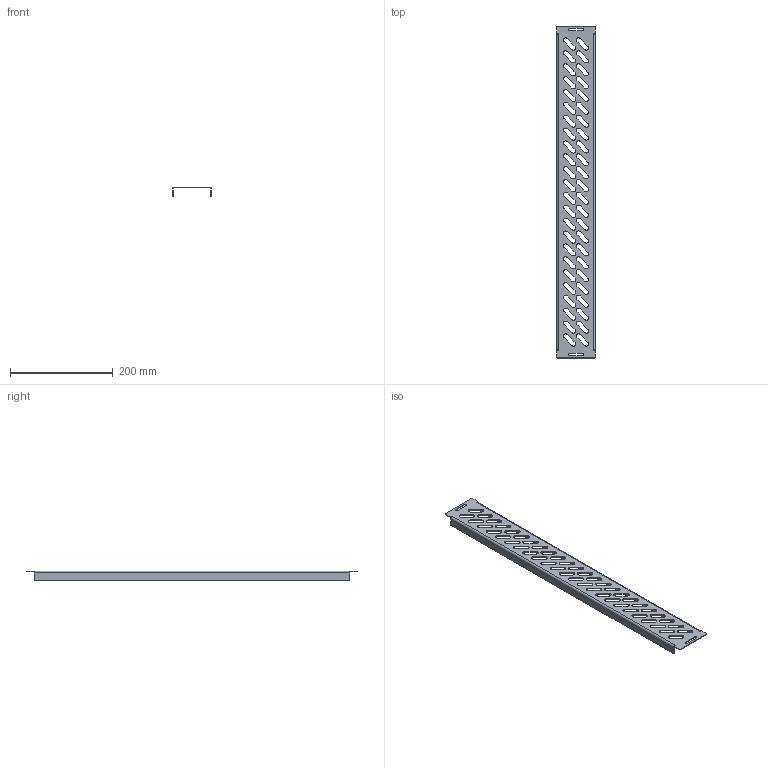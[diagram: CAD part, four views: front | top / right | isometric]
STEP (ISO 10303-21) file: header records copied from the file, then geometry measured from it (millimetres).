
FILE_DESCRIPTION(('STEP AP203'), '1');
FILE_NAME('3007 Ïàíåëü íà äíî ïîäâèæíàÿ', '', ('UNSPECIFIED'), ('UNSPECIFIED'), 'C3D Converter', 'C3D Toolkit', '');
FILE_SCHEMA(('CONFIG_CONTROL_DESIGN'));
Length unit declared in the file: millimetre
Products named in the file (1): 3007.80.75.П
Bounding box: 75 x 645 x 19 mm (x, y, z)
Volume: 84879 mm3; surface area: 120676.1 mm2
Topology: 1 solids, 1 shells, 246 faces, 716 edges, 472 vertices
Faces by surface type: plane 126, cylinder 120
Entity records: 8412 total; most frequent: DIRECTION 1450, CARTESIAN_POINT 1435, ORIENTED_EDGE 1432, EDGE_CURVE 716, AXIS2_PLACEMENT_3D 487, LINE 476, VECTOR 476, VERTEX_POINT 472
